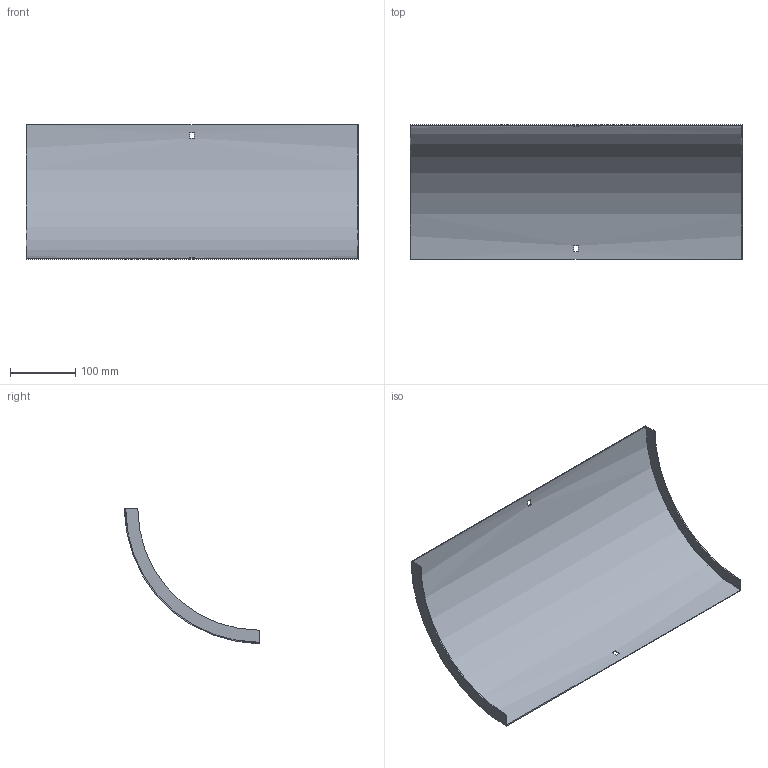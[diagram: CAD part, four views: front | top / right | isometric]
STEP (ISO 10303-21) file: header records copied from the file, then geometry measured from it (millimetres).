
FILE_DESCRIPTION (( 'STEP AP214' ), '1' );
FILE_NAME ('33N1D500.step', '2025-02-21T09:17:15', ( '' ), ( '' ), 'SwSTEP 2.0', 'SolidWorks 2023', '' );
FILE_SCHEMA (( 'AUTOMOTIVE_DESIGN' ));
Length unit declared in the file: millimetre
Products named in the file (1): 33N1D500
Bounding box: 507 x 205.5 x 205.5 mm (x, y, z)
Volume: 261394.5 mm3; surface area: 351129 mm2
Topology: 1 solids, 1 shells, 18 faces, 48 edges, 32 vertices
Faces by surface type: plane 14, cylinder 4
Entity records: 599 total; most frequent: DIRECTION 102, CARTESIAN_POINT 99, ORIENTED_EDGE 96, EDGE_CURVE 48, AXIS2_PLACEMENT_3D 35, LINE 32, VERTEX_POINT 32, VECTOR 32
